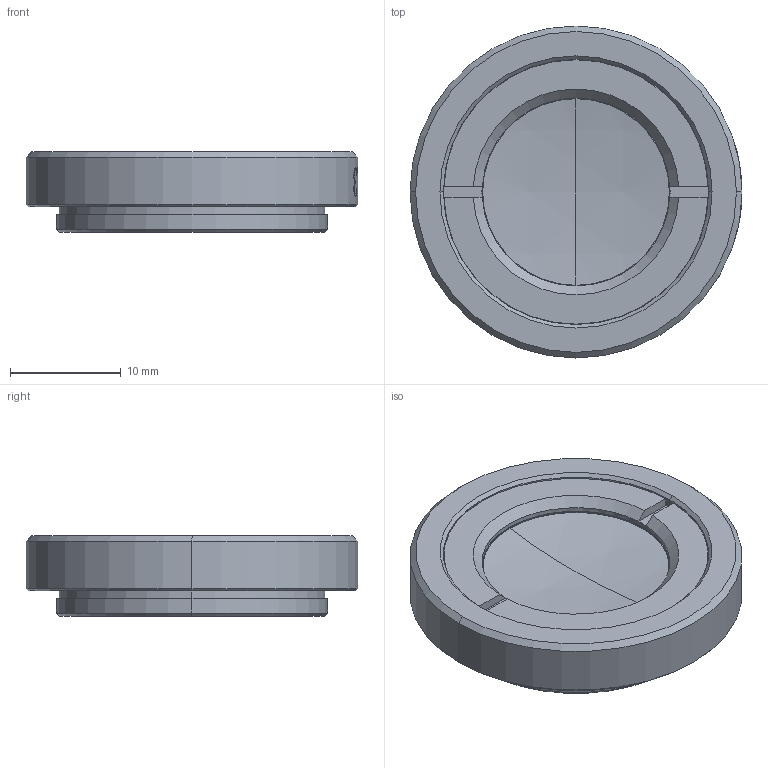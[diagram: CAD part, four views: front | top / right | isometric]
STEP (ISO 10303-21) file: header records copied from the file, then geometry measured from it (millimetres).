
FILE_DESCRIPTION (( 'STEP AP214' ), '1' );
FILE_NAME ('ML-Z03.STEP', '2026-02-24T06:59:05', ( '' ), ( '' ), 'SwSTEP 2.0', 'SolidWorks 2025', '' );
FILE_SCHEMA (( 'AUTOMOTIVE_DESIGN' ));
Length unit declared in the file: millimetre
Products named in the file (1): ML-Z03
Bounding box: 30 x 30 x 7.3 mm (x, y, z)
Volume: 3908.7 mm3; surface area: 2148.5 mm2
Topology: 1 solids, 1 shells, 101 faces, 255 edges, 166 vertices
Faces by surface type: bspline 39, cylinder 25, plane 19, cone 14, sphere 4
Entity records: 6779 total; most frequent: CARTESIAN_POINT 4645, ORIENTED_EDGE 510, DIRECTION 314, EDGE_CURVE 255, VERTEX_POINT 166, B_SPLINE_CURVE_WITH_KNOTS 135, AXIS2_PLACEMENT_3D 131, EDGE_LOOP 111
